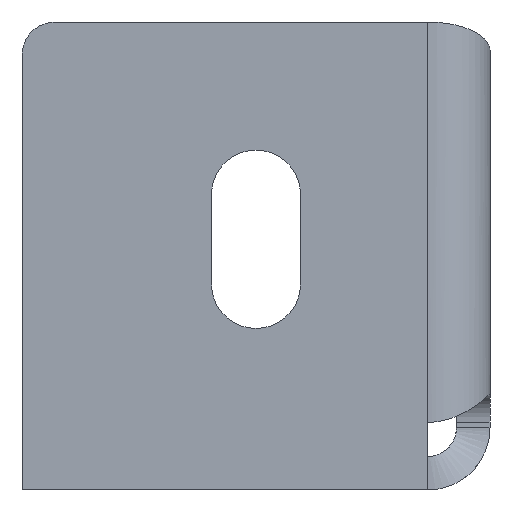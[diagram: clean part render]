
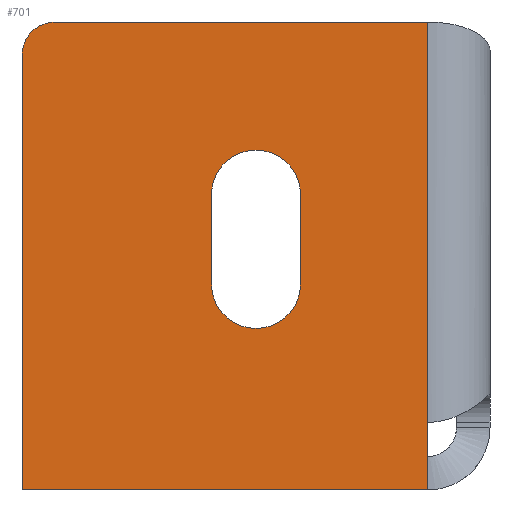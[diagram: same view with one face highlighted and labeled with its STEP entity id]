
A CAD part, front view. The second image highlights one B-rep face of the part: STEP entity #701.
In plain terms, the highlighted planar face has unit normal (0, -1, 0).
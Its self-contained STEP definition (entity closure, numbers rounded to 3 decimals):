
#8 = EDGE_CURVE ( 'NONE', #1062, #169, #118, .T. ) ;
#11 = CARTESIAN_POINT ( 'NONE',  ( 0.783, -18.803, 18.5 ) ) ;
#32 = CARTESIAN_POINT ( 'NONE',  ( 16.183, -18.803, 42. ) ) ;
#38 = CARTESIAN_POINT ( 'NONE',  ( 4.783, -18.803, 26.5 ) ) ;
#43 = CARTESIAN_POINT ( 'NONE',  ( -3.217, -18.803, 26.5 ) ) ;
#53 = VERTEX_POINT ( 'NONE', #38 ) ;
#56 = ORIENTED_EDGE ( 'NONE', *, *, #985, .T. ) ;
#59 = CIRCLE ( 'NONE', #1157, 4. ) ;
#66 = CARTESIAN_POINT ( 'NONE',  ( -3.217, -18.803, 18.5 ) ) ;
#70 = EDGE_CURVE ( 'NONE', #976, #912, #498, .T. ) ;
#71 = DIRECTION ( 'NONE',  ( 0., 0., -1. ) ) ;
#82 = DIRECTION ( 'NONE',  ( 0., 1., 0. ) ) ;
#95 = CARTESIAN_POINT ( 'NONE',  ( -20.217, -18.803, 42. ) ) ;
#110 = CARTESIAN_POINT ( 'NONE',  ( 16.183, -18.803, 0. ) ) ;
#118 = CIRCLE ( 'NONE', #586, 4. ) ;
#120 = VERTEX_POINT ( 'NONE', #574 ) ;
#121 = ORIENTED_EDGE ( 'NONE', *, *, #1051, .F. ) ;
#124 = CARTESIAN_POINT ( 'NONE',  ( 16.183, -18.803, 0. ) ) ;
#133 = ORIENTED_EDGE ( 'NONE', *, *, #533, .T. ) ;
#141 = DIRECTION ( 'NONE',  ( 0., 0., 1. ) ) ;
#150 = CARTESIAN_POINT ( 'NONE',  ( 0.783, -18.803, 26.5 ) ) ;
#169 = VERTEX_POINT ( 'NONE', #66 ) ;
#177 = CARTESIAN_POINT ( 'NONE',  ( -17.217, -18.803, 42. ) ) ;
#181 = VECTOR ( 'NONE', #402, 1000. ) ;
#187 = DIRECTION ( 'NONE',  ( 0., 0., -1. ) ) ;
#201 = AXIS2_PLACEMENT_3D ( 'NONE', #95, #740, #187 ) ;
#206 = EDGE_CURVE ( 'NONE', #818, #53, #553, .T. ) ;
#207 = DIRECTION ( 'NONE',  ( -1., 0., 0. ) ) ;
#241 = DIRECTION ( 'NONE',  ( 0., 1., 0. ) ) ;
#313 = CARTESIAN_POINT ( 'NONE',  ( 16.183, -18.803, 6.071 ) ) ;
#340 = EDGE_CURVE ( 'NONE', #53, #1062, #1078, .T. ) ;
#343 = CARTESIAN_POINT ( 'NONE',  ( 4.783, -18.803, 18.5 ) ) ;
#349 = VERTEX_POINT ( 'NONE', #32 ) ;
#371 = LINE ( 'NONE', #313, #181 ) ;
#395 = DIRECTION ( 'NONE',  ( 0., 0., 1. ) ) ;
#402 = DIRECTION ( 'NONE',  ( 0., 0., -1. ) ) ;
#417 = ORIENTED_EDGE ( 'NONE', *, *, #807, .F. ) ;
#436 = DIRECTION ( 'NONE',  ( 0., 0., -1. ) ) ;
#483 = CARTESIAN_POINT ( 'NONE',  ( -17.217, -18.803, 39. ) ) ;
#489 = ORIENTED_EDGE ( 'NONE', *, *, #70, .T. ) ;
#497 = ORIENTED_EDGE ( 'NONE', *, *, #539, .F. ) ;
#498 = LINE ( 'NONE', #597, #1200 ) ;
#525 = VERTEX_POINT ( 'NONE', #43 ) ;
#527 = FACE_OUTER_BOUND ( 'NONE', #593, .T. ) ;
#532 = VECTOR ( 'NONE', #436, 1000. ) ;
#533 = EDGE_CURVE ( 'NONE', #349, #1191, #1171, .T. ) ;
#539 = EDGE_CURVE ( 'NONE', #120, #662, #371, .T. ) ;
#551 = PLANE ( 'NONE',  #201 ) ;
#553 = CIRCLE ( 'NONE', #1165, 4. ) ;
#571 = VECTOR ( 'NONE', #870, 1000. ) ;
#574 = CARTESIAN_POINT ( 'NONE',  ( 16.183, -18.803, 6.071 ) ) ;
#583 = DIRECTION ( 'NONE',  ( 0., 0., -1. ) ) ;
#586 = AXIS2_PLACEMENT_3D ( 'NONE', #11, #932, #395 ) ;
#593 = EDGE_LOOP ( 'NONE', ( #133, #417, #489, #1215, #497, #121 ) ) ;
#597 = CARTESIAN_POINT ( 'NONE',  ( -20.217, -18.803, 42. ) ) ;
#619 = LINE ( 'NONE', #124, #636 ) ;
#622 = VECTOR ( 'NONE', #141, 1000. ) ;
#623 = CARTESIAN_POINT ( 'NONE',  ( 4.783, -18.803, 42. ) ) ;
#628 = CARTESIAN_POINT ( 'NONE',  ( 0.783, -18.803, 26.5 ) ) ;
#636 = VECTOR ( 'NONE', #207, 1000. ) ;
#662 = VERTEX_POINT ( 'NONE', #110 ) ;
#692 = VECTOR ( 'NONE', #71, 1000. ) ;
#694 = EDGE_LOOP ( 'NONE', ( #56, #719, #717, #1206, #1096 ) ) ;
#697 = CARTESIAN_POINT ( 'NONE',  ( -3.217, -18.803, 42. ) ) ;
#700 = AXIS2_PLACEMENT_3D ( 'NONE', #483, #1154, #583 ) ;
#701 = ADVANCED_FACE ( 'NONE', ( #1029, #527 ), #551, .T. ) ;
#717 = ORIENTED_EDGE ( 'NONE', *, *, #206, .T. ) ;
#719 = ORIENTED_EDGE ( 'NONE', *, *, #1117, .T. ) ;
#724 = DIRECTION ( 'NONE',  ( 0., 0., 1. ) ) ;
#740 = DIRECTION ( 'NONE',  ( 0., -1., 0. ) ) ;
#772 = CARTESIAN_POINT ( 'NONE',  ( -20.217, -18.803, 42. ) ) ;
#796 = EDGE_CURVE ( 'NONE', #662, #912, #619, .T. ) ;
#807 = EDGE_CURVE ( 'NONE', #976, #1191, #996, .T. ) ;
#812 = LINE ( 'NONE', #901, #532 ) ;
#818 = VERTEX_POINT ( 'NONE', #864 ) ;
#864 = CARTESIAN_POINT ( 'NONE',  ( 0.783, -18.803, 30.5 ) ) ;
#870 = DIRECTION ( 'NONE',  ( -1., 0., 0. ) ) ;
#901 = CARTESIAN_POINT ( 'NONE',  ( 16.183, -18.803, 42. ) ) ;
#912 = VERTEX_POINT ( 'NONE', #1164 ) ;
#932 = DIRECTION ( 'NONE',  ( 0., 1., 0. ) ) ;
#976 = VERTEX_POINT ( 'NONE', #1072 ) ;
#984 = DIRECTION ( 'NONE',  ( 0., 0., 1. ) ) ;
#985 = EDGE_CURVE ( 'NONE', #169, #525, #1099, .T. ) ;
#996 = CIRCLE ( 'NONE', #700, 3. ) ;
#1029 = FACE_BOUND ( 'NONE', #694, .T. ) ;
#1051 = EDGE_CURVE ( 'NONE', #349, #120, #812, .T. ) ;
#1062 = VERTEX_POINT ( 'NONE', #343 ) ;
#1072 = CARTESIAN_POINT ( 'NONE',  ( -20.217, -18.803, 39. ) ) ;
#1078 = LINE ( 'NONE', #623, #692 ) ;
#1096 = ORIENTED_EDGE ( 'NONE', *, *, #8, .T. ) ;
#1099 = LINE ( 'NONE', #697, #622 ) ;
#1117 = EDGE_CURVE ( 'NONE', #525, #818, #59, .T. ) ;
#1142 = DIRECTION ( 'NONE',  ( 0., 0., -1. ) ) ;
#1154 = DIRECTION ( 'NONE',  ( 0., 1., 0. ) ) ;
#1157 = AXIS2_PLACEMENT_3D ( 'NONE', #628, #82, #724 ) ;
#1164 = CARTESIAN_POINT ( 'NONE',  ( -20.217, -18.803, 0. ) ) ;
#1165 = AXIS2_PLACEMENT_3D ( 'NONE', #150, #241, #984 ) ;
#1171 = LINE ( 'NONE', #772, #571 ) ;
#1191 = VERTEX_POINT ( 'NONE', #177 ) ;
#1200 = VECTOR ( 'NONE', #1142, 1000. ) ;
#1206 = ORIENTED_EDGE ( 'NONE', *, *, #340, .T. ) ;
#1215 = ORIENTED_EDGE ( 'NONE', *, *, #796, .F. ) ;
